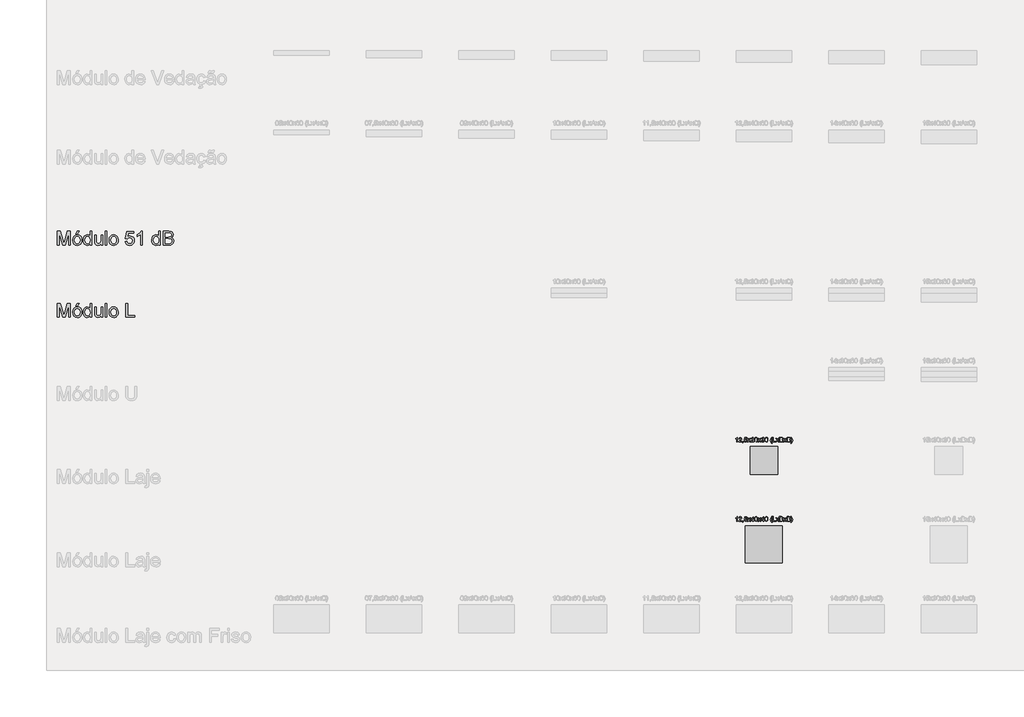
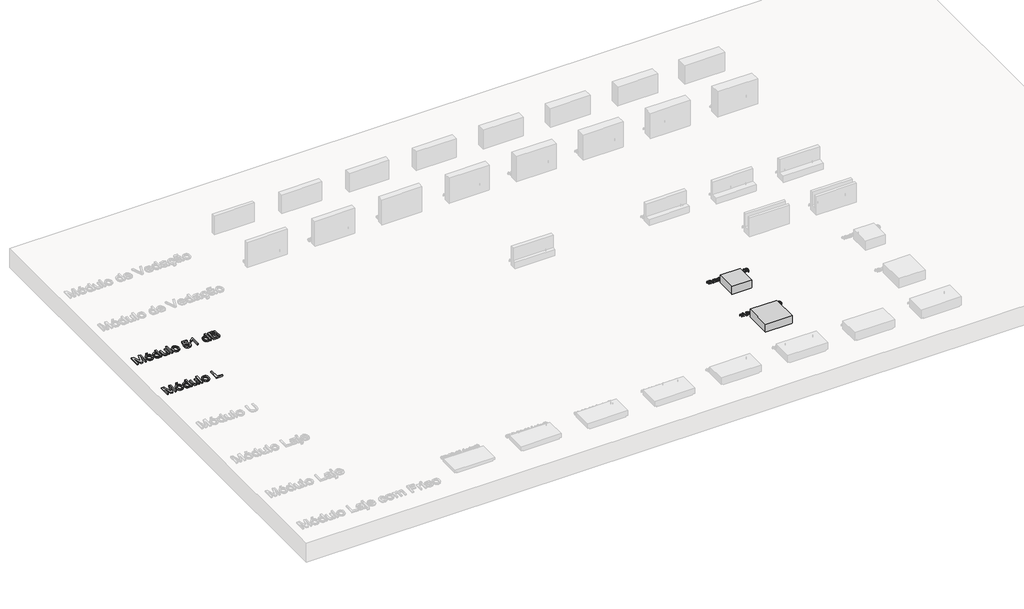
# One storey, part 5 of 26: 6 proxies.
"""IFC4 building model written with IfcOpenShell, lengths in millimetres."""

from ifc_helpers import new_model, si_unit, origin, origin_with_axes, place, context, project, spatial, polyline, outline, extrude, transform, mapped, element, save
from components import generic_models_fa7f8e5b, generic_models_7fb4620e

model = new_model("IFC4")

# Units and contexts
model_context = context("Model", 3, world=origin())
ifc_project = project(units=[si_unit("LENGTHUNIT", "METRE", prefix="MILLI")], contexts=[model_context])

# Site, building, storey
site = spatial("IfcSite", under=ifc_project)
building = spatial("IfcBuilding", under=site)
storey = spatial("IfcBuildingStorey", under=building, Name="Catálogo Celucon", Elevation=0.0)

# Proxies
placement = place(None, origin())
element("IfcBuildingElementProxy", 1, Name="Legenda Tabela de Módulos", ObjectType="Legenda Tabela de Módulos", at=placement, inside=storey, context=model_context, shape_type="SweptSolid", body=[
    extrude(outline(polyline([(-16139.397214, -754.6760122), (-16139.397214, -603.9915469), (-16106.9868102, -603.9915469), (-16076.158299, -710.199079), (-16069.9410933, -732.3823633), (-16063.2088528, -708.359669), (-16032.8953764, -603.9915469), (-16000.4849726, -603.9915469), (-16000.4849726, -754.6760122), (-16019.3205308, -754.6760122), (-16019.3205308, -622.8271051), (-16057.1755881, -754.6760122), (-16082.7065985, -754.6760122), (-16120.5616558, -622.8271051), (-16120.5616558, -754.6760122), (-16139.397214, -754.6760122)])), origin_with_axes(), (0.0, 0.0, 1.0), 20.0),
    extrude(outline(polyline([(-15974.5860802, -699.3465601), (-15970.5117871, -672.6659184), (-15958.2889078, -653.9131337), (-15943.1873519, -644.7252809), (-15925.1059518, -641.6626633), (-15905.318499, -645.392067), (-15889.5133688, -656.5802782), (-15879.1528921, -674.34438), (-15875.6993999, -697.8014557), (-15877.2261101, -716.8301519), (-15881.806241, -731.3155055), (-15889.3064352, -742.1634258), (-15899.5933354, -750.2798223), (-15911.8116162, -755.3427983), (-15925.1059518, -757.0304569), (-15945.1325279, -753.3148488), (-15960.919264, -742.1680243), (-15971.1693761, -724.031442), (-15974.5860802, -699.3465601)]), holes=[polyline([(-15955.750522, -699.3097719), (-15953.5708212, -716.3565038), (-15947.0317187, -728.5012082), (-15937.1908754, -735.7714761), (-15925.1059518, -738.1948988), (-15913.0762106, -735.7576806), (-15903.2537613, -728.4460259), (-15896.7146588, -716.1403732), (-15894.534958, -698.7211607), (-15896.7284544, -682.1710694), (-15903.3089436, -670.191912), (-15913.1451884, -662.921644), (-15925.1059518, -660.4982214), (-15937.1908754, -662.912447), (-15947.0317187, -670.1551238), (-15953.5708212, -682.272237), (-15955.750522, -699.3097719)])]), origin_with_axes(), (0.0, 0.0, 1.0), 20.0),
    extrude(outline(polyline([(-15939.2694086, -632.2448842), (-15925.14274, -603.9915469), (-15901.5982923, -603.9915469), (-15925.14274, -632.2448842), (-15939.2694086, -632.2448842)])), origin_with_axes(), (0.0, 0.0, 1.0), 20.0),
    extrude(outline(polyline([(-15786.2304986, -754.6760122), (-15786.2304986, -736.9073118), (-15798.6925012, -751.9996707), (-15815.9185756, -757.0304569), (-15828.0954697, -755.2094411), (-15839.2422941, -749.7463934), (-15848.6784673, -741.0229916), (-15855.7234075, -729.4209132), (-15860.1104003, -715.4092077), (-15861.5727312, -699.4569247), (-15856.18326, -669.4745421), (-15849.4510195, -657.5827566), (-15840.0332404, -648.8363622), (-15828.6426942, -643.456088), (-15815.992152, -641.6626633), (-15798.6281219, -646.7946171), (-15786.2304986, -660.1303394), (-15786.2304986, -603.9915469), (-15767.3949405, -603.9915469), (-15767.3949405, -754.6760122), (-15786.2304986, -754.6760122)]), holes=[polyline([(-15842.7371731, -699.3833483), (-15840.6126546, -716.4208832), (-15834.239099, -728.5379964), (-15824.9776698, -735.7806732), (-15814.1895303, -738.1948988), (-15803.4059893, -735.8910378), (-15794.3790848, -728.9794548), (-15788.2676452, -717.3313911), (-15786.2304986, -700.8180881), (-15788.3044334, -682.7642792), (-15794.5262376, -670.2470943), (-15803.7830683, -662.9354396), (-15814.9620825, -660.4982214), (-15825.8605866, -662.8388706), (-15834.790922, -669.8608182), (-15840.7506103, -681.9227491), (-15842.7371731, -699.3833483)])]), origin_with_axes(), (0.0, 0.0, 1.0), 20.0),
    extrude(outline(polyline([(-15668.5082602, -754.6760122), (-15668.5082602, -735.656513), (-15683.2603282, -751.686971), (-15702.5005565, -757.0304569), (-15720.2140746, -753.2780606), (-15732.4277568, -743.8602815), (-15738.0379573, -729.9911303), (-15739.1416032, -712.4799473), (-15739.1416032, -644.017108), (-15720.3060451, -644.017108), (-15720.3060451, -703.6139912), (-15719.1656109, -722.8174314), (-15711.7160005, -734.0930145), (-15697.6813024, -738.1948988), (-15681.9543471, -734.001044), (-15671.5616807, -722.5783081), (-15668.5082602, -701.5906403), (-15668.5082602, -644.017108), (-15649.672702, -644.017108), (-15649.672702, -754.6760122), (-15668.5082602, -754.6760122)])), origin_with_axes(), (0.0, 0.0, 1.0), 20.0),
    extrude(outline(polyline([(-15623.7738096, -754.6760122), (-15623.7738096, -603.9915469), (-15604.9382514, -603.9915469), (-15604.9382514, -754.6760122), (-15623.7738096, -754.6760122)])), origin_with_axes(), (0.0, 0.0, 1.0), 20.0),
    extrude(outline(polyline([(-15581.3938037, -699.3465601), (-15577.3195106, -672.6659184), (-15565.0966313, -653.9131337), (-15549.9950754, -644.7252809), (-15531.9136754, -641.6626633), (-15512.1262226, -645.392067), (-15496.3210923, -656.5802782), (-15485.9606156, -674.34438), (-15482.5071234, -697.8014557), (-15484.0338337, -716.8301519), (-15488.6139645, -731.3155055), (-15496.1141587, -742.1634258), (-15506.401059, -750.2798223), (-15518.6193398, -755.3427983), (-15531.9136754, -757.0304569), (-15551.9402515, -753.3148488), (-15567.7269876, -742.1680243), (-15577.9770997, -724.031442), (-15581.3938037, -699.3465601)]), holes=[polyline([(-15562.5582456, -699.3097719), (-15560.3785447, -716.3565038), (-15553.8394423, -728.5012082), (-15543.9985989, -735.7714761), (-15531.9136754, -738.1948988), (-15519.8839341, -735.7576806), (-15510.0614849, -728.4460259), (-15503.5223824, -716.1403732), (-15501.3426816, -698.7211607), (-15503.536178, -682.1710694), (-15510.1166672, -670.191912), (-15519.952912, -662.921644), (-15531.9136754, -660.4982214), (-15543.9985989, -662.912447), (-15553.8394423, -670.1551238), (-15560.3785447, -682.272237), (-15562.5582456, -699.3097719)])]), origin_with_axes(), (0.0, 0.0, 1.0), 20.0),
    extrude(outline(polyline([(-15407.1648908, -714.6504511), (-15388.3293326, -712.2960063), (-15384.8712419, -723.6037792), (-15378.8379772, -731.7017816), (-15370.2571296, -736.5716195), (-15359.1562904, -738.1948988), (-15345.6550212, -735.937023), (-15335.5382663, -729.1633958), (-15329.2198931, -718.6557663), (-15327.1137687, -705.1958838), (-15329.0865359, -692.5223491), (-15335.0048374, -682.8286585), (-15344.9146587, -676.6758321), (-15358.8619848, -674.62489), (-15375.3982805, -677.8990398), (-15385.9748879, -686.3971139), (-15404.810446, -684.0426691), (-15388.3293326, -606.3459917), (-15315.3415448, -606.3459917), (-15315.3415448, -625.1815499), (-15373.099018, -625.1815499), (-15381.1556337, -666.6786389), (-15367.7003498, -658.5116586), (-15353.6012723, -655.7893319), (-15336.0027174, -659.1646492), (-15321.3932036, -669.2906011), (-15311.5569588, -684.7232508), (-15308.2782105, -704.0186614), (-15311.2304635, -722.8542196), (-15320.0872225, -738.967451), (-15337.0465825, -752.5147054), (-15359.2298668, -757.0304569), (-15377.7297327, -754.1287877), (-15392.4680051, -745.42378), (-15402.5709644, -731.9271093), (-15407.1648908, -714.6504511)])), origin_with_axes(), (0.0, 0.0, 1.0), 20.0),
    extrude(outline(polyline([(-15221.163754, -754.6760122), (-15239.9993122, -754.6760122), (-15239.9993122, -637.2480793), (-15257.841589, -649.9584022), (-15277.6704285, -659.4681518), (-15277.6704285, -641.6626633), (-15250.0608848, -624.0411157), (-15233.3038599, -603.9915469), (-15221.163754, -603.9915469), (-15221.163754, -754.6760122)])), origin_with_axes(), (0.0, 0.0, 1.0), 20.0),
    extrude(outline(polyline([(-15044.5803964, -754.6760122), (-15044.5803964, -736.9073118), (-15057.0423989, -751.9996707), (-15074.2684734, -757.0304569), (-15086.4453674, -755.2094411), (-15097.5921919, -749.7463934), (-15107.028365, -741.0229916), (-15114.0733052, -729.4209132), (-15118.460298, -715.4092077), (-15119.922629, -699.4569247), (-15114.5331577, -669.4745421), (-15107.8009172, -657.5827566), (-15098.3831382, -648.8363622), (-15086.9925919, -643.456088), (-15074.3420498, -641.6626633), (-15056.9780196, -646.7946171), (-15044.5803964, -660.1303394), (-15044.5803964, -603.9915469), (-15025.7448382, -603.9915469), (-15025.7448382, -754.6760122), (-15044.5803964, -754.6760122)]), holes=[polyline([(-15101.0870708, -699.3833483), (-15098.9625523, -716.4208832), (-15092.5889967, -728.5379964), (-15083.3275675, -735.7806732), (-15072.539428, -738.1948988), (-15061.755887, -735.8910378), (-15052.7289825, -728.9794548), (-15046.6175429, -717.3313911), (-15044.5803964, -700.8180881), (-15046.6543311, -682.7642792), (-15052.8761353, -670.2470943), (-15062.1329661, -662.9354396), (-15073.3119802, -660.4982214), (-15084.2104843, -662.8388706), (-15093.1408197, -669.8608182), (-15099.100508, -681.9227491), (-15101.0870708, -699.3833483)])]), origin_with_axes(), (0.0, 0.0, 1.0), 20.0),
    extrude(outline(polyline([(-14995.1370562, -754.6760122), (-14995.1370562, -603.9915469), (-14937.6371004, -603.9915469), (-14909.4757336, -608.424525), (-14900.0119693, -614.048521), (-14892.8474674, -622.0545529), (-14886.8325968, -641.3315695), (-14891.8909743, -658.9347229), (-14907.1764712, -672.2704453), (-14896.5032948, -677.8438575), (-14888.6168245, -686.3235375), (-14883.7469866, -697.1484652), (-14882.1237073, -709.7576206), (-14886.5566853, -730.0095244), (-14897.5379629, -744.4304986), (-14913.9271058, -752.0824441), (-14938.0785588, -754.6760122), (-14995.1370562, -754.6760122)]), holes=[polyline([(-14976.3014981, -665.2071109), (-14941.9045315, -665.2071109), (-14921.8181746, -663.5884302), (-14909.733251, -656.6170664), (-14905.668155, -644.3482018), (-14909.4573395, -632.0609432), (-14920.3098584, -624.7952738), (-14944.5164937, -622.8271051), (-14976.3014981, -622.8271051), (-14976.3014981, -665.2071109)]), polyline([(-14976.3014981, -735.840454), (-14937.6738886, -735.840454), (-14923.6943727, -735.10469), (-14911.8669666, -731.0028058), (-14904.0310801, -722.6334904), (-14900.9592654, -709.9415616), (-14904.564509, -695.2998581), (-14916.2447623, -686.5626608), (-14939.5132985, -684.0426691), (-14976.3014981, -684.0426691), (-14976.3014981, -735.840454)])]), origin_with_axes(), (0.0, 0.0, 1.0), 20.0),
])
element("IfcBuildingElementProxy", 2, Name="Legenda Tabela de Módulos", ObjectType="Legenda Tabela de Módulos", at=placement, inside=storey, context=model_context, shape_type="SweptSolid", body=[
    extrude(outline(polyline([(-16139.397214, -1534.6760122), (-16139.397214, -1383.9915469), (-16106.9868102, -1383.9915469), (-16076.158299, -1490.199079), (-16069.9410933, -1512.3823633), (-16063.2088528, -1488.359669), (-16032.8953764, -1383.9915469), (-16000.4849726, -1383.9915469), (-16000.4849726, -1534.6760122), (-16019.3205308, -1534.6760122), (-16019.3205308, -1402.8271051), (-16057.1755881, -1534.6760122), (-16082.7065985, -1534.6760122), (-16120.5616558, -1402.8271051), (-16120.5616558, -1534.6760122), (-16139.397214, -1534.6760122)])), origin_with_axes(), (0.0, 0.0, 1.0), 20.0),
    extrude(outline(polyline([(-15974.5860802, -1479.3465601), (-15970.5117871, -1452.6659184), (-15958.2889078, -1433.9131337), (-15943.1873519, -1424.7252809), (-15925.1059518, -1421.6626633), (-15905.318499, -1425.392067), (-15889.5133688, -1436.5802782), (-15879.1528921, -1454.34438), (-15875.6993999, -1477.8014557), (-15877.2261101, -1496.8301519), (-15881.806241, -1511.3155055), (-15889.3064352, -1522.1634258), (-15899.5933354, -1530.2798223), (-15911.8116162, -1535.3427983), (-15925.1059518, -1537.0304569), (-15945.1325279, -1533.3148488), (-15960.919264, -1522.1680243), (-15971.1693761, -1504.031442), (-15974.5860802, -1479.3465601)]), holes=[polyline([(-15955.750522, -1479.3097719), (-15953.5708212, -1496.3565038), (-15947.0317187, -1508.5012082), (-15937.1908754, -1515.7714761), (-15925.1059518, -1518.1948988), (-15913.0762106, -1515.7576806), (-15903.2537613, -1508.4460259), (-15896.7146588, -1496.1403732), (-15894.534958, -1478.7211607), (-15896.7284544, -1462.1710694), (-15903.3089436, -1450.191912), (-15913.1451884, -1442.921644), (-15925.1059518, -1440.4982214), (-15937.1908754, -1442.912447), (-15947.0317187, -1450.1551238), (-15953.5708212, -1462.272237), (-15955.750522, -1479.3097719)])]), origin_with_axes(), (0.0, 0.0, 1.0), 20.0),
    extrude(outline(polyline([(-15939.2694086, -1412.2448842), (-15925.14274, -1383.9915469), (-15901.5982923, -1383.9915469), (-15925.14274, -1412.2448842), (-15939.2694086, -1412.2448842)])), origin_with_axes(), (0.0, 0.0, 1.0), 20.0),
    extrude(outline(polyline([(-15786.2304986, -1534.6760122), (-15786.2304986, -1516.9073118), (-15798.6925012, -1531.9996707), (-15815.9185756, -1537.0304569), (-15828.0954697, -1535.2094411), (-15839.2422941, -1529.7463934), (-15848.6784673, -1521.0229916), (-15855.7234075, -1509.4209132), (-15860.1104003, -1495.4092077), (-15861.5727312, -1479.4569247), (-15856.18326, -1449.4745421), (-15849.4510195, -1437.5827566), (-15840.0332404, -1428.8363622), (-15828.6426942, -1423.456088), (-15815.992152, -1421.6626633), (-15798.6281219, -1426.7946171), (-15786.2304986, -1440.1303394), (-15786.2304986, -1383.9915469), (-15767.3949405, -1383.9915469), (-15767.3949405, -1534.6760122), (-15786.2304986, -1534.6760122)]), holes=[polyline([(-15842.7371731, -1479.3833483), (-15840.6126546, -1496.4208832), (-15834.239099, -1508.5379964), (-15824.9776698, -1515.7806732), (-15814.1895303, -1518.1948988), (-15803.4059893, -1515.8910378), (-15794.3790848, -1508.9794548), (-15788.2676452, -1497.3313911), (-15786.2304986, -1480.8180881), (-15788.3044334, -1462.7642792), (-15794.5262376, -1450.2470943), (-15803.7830683, -1442.9354396), (-15814.9620825, -1440.4982214), (-15825.8605866, -1442.8388706), (-15834.790922, -1449.8608182), (-15840.7506103, -1461.9227491), (-15842.7371731, -1479.3833483)])]), origin_with_axes(), (0.0, 0.0, 1.0), 20.0),
    extrude(outline(polyline([(-15668.5082602, -1534.6760122), (-15668.5082602, -1515.656513), (-15683.2603282, -1531.686971), (-15702.5005565, -1537.0304569), (-15720.2140746, -1533.2780606), (-15732.4277568, -1523.8602815), (-15738.0379573, -1509.9911303), (-15739.1416032, -1492.4799473), (-15739.1416032, -1424.017108), (-15720.3060451, -1424.017108), (-15720.3060451, -1483.6139912), (-15719.1656109, -1502.8174314), (-15711.7160005, -1514.0930145), (-15697.6813024, -1518.1948988), (-15681.9543471, -1514.001044), (-15671.5616807, -1502.5783081), (-15668.5082602, -1481.5906403), (-15668.5082602, -1424.017108), (-15649.672702, -1424.017108), (-15649.672702, -1534.6760122), (-15668.5082602, -1534.6760122)])), origin_with_axes(), (0.0, 0.0, 1.0), 20.0),
    extrude(outline(polyline([(-15623.7738096, -1534.6760122), (-15623.7738096, -1383.9915469), (-15604.9382514, -1383.9915469), (-15604.9382514, -1534.6760122), (-15623.7738096, -1534.6760122)])), origin_with_axes(), (0.0, 0.0, 1.0), 20.0),
    extrude(outline(polyline([(-15581.3938037, -1479.3465601), (-15577.3195106, -1452.6659184), (-15565.0966313, -1433.9131337), (-15549.9950754, -1424.7252809), (-15531.9136754, -1421.6626633), (-15512.1262226, -1425.392067), (-15496.3210923, -1436.5802782), (-15485.9606156, -1454.34438), (-15482.5071234, -1477.8014557), (-15484.0338337, -1496.8301519), (-15488.6139645, -1511.3155055), (-15496.1141587, -1522.1634258), (-15506.401059, -1530.2798223), (-15518.6193398, -1535.3427983), (-15531.9136754, -1537.0304569), (-15551.9402515, -1533.3148488), (-15567.7269876, -1522.1680243), (-15577.9770997, -1504.031442), (-15581.3938037, -1479.3465601)]), holes=[polyline([(-15562.5582456, -1479.3097719), (-15560.3785447, -1496.3565038), (-15553.8394423, -1508.5012082), (-15543.9985989, -1515.7714761), (-15531.9136754, -1518.1948988), (-15519.8839341, -1515.7576806), (-15510.0614849, -1508.4460259), (-15503.5223824, -1496.1403732), (-15501.3426816, -1478.7211607), (-15503.536178, -1462.1710694), (-15510.1166672, -1450.191912), (-15519.952912, -1442.921644), (-15531.9136754, -1440.4982214), (-15543.9985989, -1442.912447), (-15553.8394423, -1450.1551238), (-15560.3785447, -1462.272237), (-15562.5582456, -1479.3097719)])]), origin_with_axes(), (0.0, 0.0, 1.0), 20.0),
    extrude(outline(polyline([(-15400.1015565, -1534.6760122), (-15400.1015565, -1383.9915469), (-15381.2659983, -1383.9915469), (-15381.2659983, -1515.840454), (-15305.9237657, -1515.840454), (-15305.9237657, -1534.6760122), (-15400.1015565, -1534.6760122)])), origin_with_axes(), (0.0, 0.0, 1.0), 20.0),
])
element("IfcBuildingElementProxy", 3, Name="Dimensões", ObjectType="Dimensões", at=placement, inside=storey, context=model_context, shape_type="SweptSolid", body=[
    extrude(outline(polyline([(-8785.1026375, -2885.3902979), (-8791.3811568, -2885.3902979), (-8791.3811568, -2846.2476536), (-8797.3285824, -2850.4844279), (-8803.9381956, -2853.6543444), (-8803.9381956, -2847.7191816), (-8794.7350144, -2841.8453324), (-8789.1493394, -2835.1621428), (-8785.1026375, -2835.1621428), (-8785.1026375, -2885.3902979)])), origin_with_axes(), (0.0, 0.0, 1.0), 20.0),
    extrude(outline(polyline([(-8738.0137421, -2879.1117785), (-8738.0137421, -2885.3902979), (-8770.9759688, -2885.3902979), (-8770.3015185, -2881.0615531), (-8766.4878085, -2874.3967576), (-8758.6273965, -2867.1188255), (-8747.7871404, -2856.6587141), (-8745.0770764, -2849.5463288), (-8747.6338563, -2843.7889756), (-8754.3109145, -2841.4406622), (-8761.2700155, -2843.7337933), (-8763.9126345, -2850.0736263), (-8770.1911539, -2849.2888114), (-8765.3780312, -2838.7796491), (-8754.1760244, -2835.1621428), (-8742.9372294, -2839.1843193), (-8738.798557, -2849.1661841), (-8739.9144657, -2855.119741), (-8743.6239425, -2861.2756331), (-8752.6186573, -2869.8779404), (-8759.8414071, -2875.9173365), (-8762.6740985, -2879.1117785), (-8738.0137421, -2879.1117785)])), origin_with_axes(), (0.0, 0.0, 1.0), 20.0),
    extrude(outline(polyline([(-8728.595963, -2885.3902979), (-8728.595963, -2879.1117785), (-8722.3174436, -2879.1117785), (-8722.3174436, -2885.3902979), (-8723.4456151, -2891.8098387), (-8727.0263332, -2895.5928919), (-8728.595963, -2893.2384471), (-8726.2905692, -2890.5283831), (-8725.468966, -2885.3902979), (-8728.595963, -2885.3902979)])), origin_with_axes(), (0.0, 0.0, 1.0), 20.0),
    extrude(outline(polyline([(-8712.1148496, -2872.0484442), (-8705.8363302, -2871.2636293), (-8702.6725451, -2877.732221), (-8696.1119828, -2879.8965934), (-8688.2393081, -2876.8860924), (-8685.4311422, -2868.8969218), (-8688.0614985, -2861.44118), (-8696.013881, -2858.7065905), (-8701.5259795, -2859.7979738), (-8705.0515153, -2862.6306651), (-8711.3300347, -2861.8458502), (-8705.8363302, -2835.9469577), (-8681.5070676, -2835.9469577), (-8681.5070676, -2842.2254771), (-8700.7595587, -2842.2254771), (-8703.4450973, -2856.0578401), (-8694.2603101, -2852.4280711), (-8683.5242872, -2856.9284942), (-8679.1526229, -2868.5045143), (-8683.0889602, -2880.1541108), (-8688.7420802, -2884.6698623), (-8696.1365083, -2886.1751128), (-8707.2158877, -2882.3062205), (-8712.1148496, -2872.0484442)])), origin_with_axes(), (0.0, 0.0, 1.0), 20.0),
    extrude(outline(polyline([(-8676.0133632, -2885.3902979), (-8662.5979331, -2866.8490453), (-8675.2285482, -2848.5039965), (-8667.6747046, -2848.5039965), (-8661.5801262, -2857.3331644), (-8658.7351721, -2861.5024937), (-8656.2703628, -2858.0934538), (-8649.3296558, -2848.5039965), (-8641.7758121, -2848.5039965), (-8655.0440894, -2866.8490453), (-8642.2663215, -2885.3902979), (-8649.8201651, -2885.3902979), (-8657.5088988, -2874.2434734), (-8658.9191131, -2872.2078597), (-8668.4595195, -2885.3902979), (-8676.0133632, -2885.3902979)])), origin_with_axes(), (0.0, 0.0, 1.0), 20.0),
    extrude(outline(polyline([(-8638.3422469, -2872.0484442), (-8632.0637275, -2871.2636293), (-8628.5995053, -2877.8732424), (-8622.1186509, -2879.8965934), (-8614.4912308, -2877.112953), (-8611.6585395, -2870.2212969), (-8614.4667054, -2863.7281797), (-8621.6036161, -2861.1591371), (-8626.0059373, -2861.8458502), (-8625.3069615, -2855.5673308), (-8617.1767694, -2853.8382854), (-8614.0129842, -2848.29553), (-8616.3061153, -2843.3843054), (-8622.2167527, -2841.4406622), (-8628.2009665, -2843.4026995), (-8631.2789125, -2849.2888114), (-8637.5574319, -2848.5039965), (-8632.4193467, -2838.6570218), (-8622.4374819, -2835.1621428), (-8614.8652442, -2836.8850568), (-8609.5677435, -2841.5939464), (-8607.7344649, -2847.927648), (-8609.475773, -2853.7156581), (-8614.6261209, -2857.8727246), (-8607.7835158, -2862.1646813), (-8605.3800201, -2870.3316615), (-8610.1870115, -2881.5643251), (-8622.3393801, -2886.1751128), (-8633.3513145, -2882.2387755), (-8638.3422469, -2872.0484442)])), origin_with_axes(), (0.0, 0.0, 1.0), 20.0),
    extrude(outline(polyline([(-8599.8863156, -2860.6808905), (-8598.0407743, -2846.2292595), (-8592.5593326, -2837.8967323), (-8583.4052022, -2835.1621428), (-8576.0720878, -2836.7808236), (-8571.007579, -2841.4467936), (-8568.064523, -2848.8780099), (-8566.9240889, -2860.6808905), (-8568.7512361, -2875.0712079), (-8574.2142837, -2883.4221292), (-8583.4052022, -2886.1751128), (-8594.8831205, -2881.3926469), (-8598.6355168, -2872.8976385), (-8599.8863156, -2860.6808905)]), holes=[polyline([(-8593.6077962, -2860.6686278), (-8590.6647403, -2876.260693), (-8583.4052022, -2879.8965934), (-8576.1456642, -2876.2484303), (-8573.2026082, -2860.6686278), (-8576.0475623, -2845.2543722), (-8583.4787786, -2841.4406622), (-8590.5666384, -2844.8006511), (-8593.6077962, -2860.6686278)])]), origin_with_axes(), (0.0, 0.0, 1.0), 20.0),
    extrude(outline(polyline([(-8563.7848292, -2885.3902979), (-8550.3693991, -2866.8490453), (-8563.0000142, -2848.5039965), (-8555.4461706, -2848.5039965), (-8549.3515922, -2857.3331644), (-8546.5066381, -2861.5024937), (-8544.0418288, -2858.0934538), (-8537.1011218, -2848.5039965), (-8529.5472781, -2848.5039965), (-8542.8155554, -2866.8490453), (-8530.0377875, -2885.3902979), (-8537.5916311, -2885.3902979), (-8545.2803648, -2874.2434734), (-8546.6905791, -2872.2078597), (-8556.2309855, -2885.3902979), (-8563.7848292, -2885.3902979)])), origin_with_axes(), (0.0, 0.0, 1.0), 20.0),
    extrude(outline(polyline([(-8526.1137129, -2872.0484442), (-8519.8351935, -2871.2636293), (-8516.3709714, -2877.8732424), (-8509.8901169, -2879.8965934), (-8502.2626968, -2877.112953), (-8499.4300055, -2870.2212969), (-8502.2381714, -2863.7281797), (-8509.3750821, -2861.1591371), (-8513.7774033, -2861.8458502), (-8513.0784275, -2855.5673308), (-8504.9482354, -2853.8382854), (-8501.7844502, -2848.29553), (-8504.0775813, -2843.3843054), (-8509.9882187, -2841.4406622), (-8515.9724325, -2843.4026995), (-8519.0503785, -2849.2888114), (-8525.3288979, -2848.5039965), (-8520.1908127, -2838.6570218), (-8510.2089479, -2835.1621428), (-8502.6367102, -2836.8850568), (-8497.3392095, -2841.5939464), (-8495.5059309, -2847.927648), (-8497.247239, -2853.7156581), (-8502.3975869, -2857.8727246), (-8495.5549818, -2862.1646813), (-8493.1514861, -2870.3316615), (-8497.9584775, -2881.5643251), (-8510.1108461, -2886.1751128), (-8521.1227805, -2882.2387755), (-8526.1137129, -2872.0484442)])), origin_with_axes(), (0.0, 0.0, 1.0), 20.0),
    extrude(outline(polyline([(-8487.6577816, -2860.6808905), (-8485.8122403, -2846.2292595), (-8480.3307986, -2837.8967323), (-8471.1766682, -2835.1621428), (-8463.8435538, -2836.7808236), (-8458.779045, -2841.4467936), (-8455.835989, -2848.8780099), (-8454.6955549, -2860.6808905), (-8456.5227021, -2875.0712079), (-8461.9857497, -2883.4221292), (-8471.1766682, -2886.1751128), (-8482.6545865, -2881.3926469), (-8486.4069828, -2872.8976385), (-8487.6577816, -2860.6808905)]), holes=[polyline([(-8481.3792622, -2860.6686278), (-8478.4362063, -2876.260693), (-8471.1766682, -2879.8965934), (-8463.9171302, -2876.2484303), (-8460.9740742, -2860.6686278), (-8463.8190283, -2845.2543722), (-8471.2502446, -2841.4406622), (-8478.3381044, -2844.8006511), (-8481.3792622, -2860.6686278)])]), origin_with_axes(), (0.0, 0.0, 1.0), 20.0),
    extrude(outline(polyline([(-8415.4548087, -2899.5169665), (-8424.3698157, -2884.789424), (-8428.0118475, -2867.3027665), (-8425.2895207, -2852.0356637), (-8415.4548087, -2835.1621428), (-8410.7459192, -2835.1621428), (-8416.6197684, -2845.1072194), (-8420.1514355, -2854.7457277), (-8421.7333281, -2867.3395547), (-8418.9864759, -2883.4343919), (-8410.7459192, -2899.5169665), (-8415.4548087, -2899.5169665)])), origin_with_axes(), (0.0, 0.0, 1.0), 20.0),
    extrude(outline(polyline([(-8403.6825849, -2885.3902979), (-8403.6825849, -2835.1621428), (-8397.4040655, -2835.1621428), (-8397.4040655, -2879.1117785), (-8372.2899879, -2879.1117785), (-8372.2899879, -2885.3902979), (-8403.6825849, -2885.3902979)])), origin_with_axes(), (0.0, 0.0, 1.0), 20.0),
    extrude(outline(polyline([(-8369.9355432, -2885.3902979), (-8356.5201131, -2866.8490453), (-8369.1507282, -2848.5039965), (-8361.5968846, -2848.5039965), (-8355.5023062, -2857.3331644), (-8352.6573521, -2861.5024937), (-8350.1925428, -2858.0934538), (-8343.2518358, -2848.5039965), (-8335.6979922, -2848.5039965), (-8348.9662694, -2866.8490453), (-8336.1885015, -2885.3902979), (-8343.7423451, -2885.3902979), (-8351.4310788, -2874.2434734), (-8352.8412931, -2872.2078597), (-8362.3816995, -2885.3902979), (-8369.9355432, -2885.3902979)])), origin_with_axes(), (0.0, 0.0, 1.0), 20.0),
    extrude(outline(polyline([(-8329.9099821, -2885.3902979), (-8329.9099821, -2835.1621428), (-8310.7433301, -2835.1621428), (-8301.3562079, -2836.6398022), (-8295.8134525, -2841.1831448), (-8293.8084956, -2847.608817), (-8295.4946214, -2853.4765348), (-8300.5897871, -2857.9217756), (-8294.4032382, -2862.6061396), (-8292.2388658, -2870.4175007), (-8293.7165251, -2877.1681353), (-8297.376951, -2881.9751267), (-8302.8399986, -2884.5257752), (-8310.8904829, -2885.3902979), (-8329.9099821, -2885.3902979)]), holes=[polyline([(-8323.6314627, -2855.5673308), (-8312.1658072, -2855.5673308), (-8305.4703549, -2855.0277705), (-8301.442047, -2852.7039826), (-8300.087015, -2848.6143611), (-8301.3500765, -2844.5186082), (-8304.9675828, -2842.0967184), (-8313.0364613, -2841.4406622), (-8323.6314627, -2841.4406622), (-8323.6314627, -2855.5673308)]), polyline([(-8323.6314627, -2879.1117785), (-8310.7555929, -2879.1117785), (-8306.0957543, -2878.8665238), (-8302.1532856, -2877.4992291), (-8299.5413234, -2874.7094573), (-8298.5173852, -2870.4788143), (-8299.719133, -2865.5982465), (-8303.6125508, -2862.6858474), (-8311.3687295, -2861.8458502), (-8323.6314627, -2861.8458502), (-8323.6314627, -2879.1117785)])]), origin_with_axes(), (0.0, 0.0, 1.0), 20.0),
    extrude(outline(polyline([(-8288.3147912, -2885.3902979), (-8274.8993611, -2866.8490453), (-8287.5299763, -2848.5039965), (-8279.9761326, -2848.5039965), (-8273.8815542, -2857.3331644), (-8271.0366001, -2861.5024937), (-8268.5717908, -2858.0934538), (-8261.6310838, -2848.5039965), (-8254.0772402, -2848.5039965), (-8267.3455174, -2866.8490453), (-8254.5677495, -2885.3902979), (-8262.1215931, -2885.3902979), (-8269.8103268, -2874.2434734), (-8271.2205411, -2872.2078597), (-8280.7609475, -2885.3902979), (-8288.3147912, -2885.3902979)])), origin_with_axes(), (0.0, 0.0, 1.0), 20.0),
    extrude(outline(polyline([(-8248.2892301, -2885.3902979), (-8248.2892301, -2835.1621428), (-8229.1225782, -2835.1621428), (-8219.7354559, -2836.6398022), (-8214.1927005, -2841.1831448), (-8212.1877436, -2847.608817), (-8213.8738695, -2853.4765348), (-8218.9690351, -2857.9217756), (-8212.7824862, -2862.6061396), (-8210.6181138, -2870.4175007), (-8212.0957731, -2877.1681353), (-8215.756199, -2881.9751267), (-8221.2192466, -2884.5257752), (-8229.2697309, -2885.3902979), (-8248.2892301, -2885.3902979)]), holes=[polyline([(-8242.0107107, -2855.5673308), (-8230.5450552, -2855.5673308), (-8223.8496029, -2855.0277705), (-8219.821295, -2852.7039826), (-8218.466263, -2848.6143611), (-8219.7293245, -2844.5186082), (-8223.3468308, -2842.0967184), (-8231.4157093, -2841.4406622), (-8242.0107107, -2841.4406622), (-8242.0107107, -2855.5673308)]), polyline([(-8242.0107107, -2879.1117785), (-8229.1348409, -2879.1117785), (-8224.4750023, -2878.8665238), (-8220.5325336, -2877.4992291), (-8217.9205714, -2874.7094573), (-8216.8966332, -2870.4788143), (-8218.098381, -2865.5982465), (-8221.9917988, -2862.6858474), (-8229.7479775, -2861.8458502), (-8242.0107107, -2861.8458502), (-8242.0107107, -2879.1117785)])]), origin_with_axes(), (0.0, 0.0, 1.0), 20.0),
    extrude(outline(polyline([(-8201.2003347, -2899.5169665), (-8205.9092243, -2899.5169665), (-8197.6686676, -2883.4343919), (-8194.9218153, -2867.3395547), (-8196.5037079, -2854.8560923), (-8199.9985869, -2845.2053213), (-8205.9092243, -2835.1621428), (-8201.2003347, -2835.1621428), (-8191.3656227, -2852.0356637), (-8188.6432959, -2867.3027665), (-8192.3037218, -2884.789424), (-8201.2003347, -2899.5169665)])), origin_with_axes(), (0.0, 0.0, 1.0), 20.0),
])
element("IfcBuildingElementProxy", 4, Name="Dimensões", ObjectType="Dimensões", at=placement, inside=storey, context=model_context, shape_type="SweptSolid", body=[
    extrude(outline(polyline([(-8785.1026375, -3742.533155), (-8791.3811568, -3742.533155), (-8791.3811568, -3703.3905107), (-8797.3285824, -3707.6272851), (-8803.9381956, -3710.7972016), (-8803.9381956, -3704.8620387), (-8794.7350144, -3698.9881895), (-8789.1493394, -3692.305), (-8785.1026375, -3692.305), (-8785.1026375, -3742.533155)])), origin_with_axes(), (0.0, 0.0, 1.0), 20.0),
    extrude(outline(polyline([(-8738.0137421, -3736.2546356), (-8738.0137421, -3742.533155), (-8770.9759688, -3742.533155), (-8770.3015185, -3738.2044102), (-8766.4878085, -3731.5396147), (-8758.6273965, -3724.2616826), (-8747.7871404, -3713.8015712), (-8745.0770764, -3706.689186), (-8747.6338563, -3700.9318327), (-8754.3109145, -3698.5835193), (-8761.2700155, -3700.8766504), (-8763.9126345, -3707.2164835), (-8770.1911539, -3706.4316686), (-8765.3780312, -3695.9225062), (-8754.1760244, -3692.305), (-8742.9372294, -3696.3271764), (-8738.798557, -3706.3090412), (-8739.9144657, -3712.2625982), (-8743.6239425, -3718.4184902), (-8752.6186573, -3727.0207976), (-8759.8414071, -3733.0601937), (-8762.6740985, -3736.2546356), (-8738.0137421, -3736.2546356)])), origin_with_axes(), (0.0, 0.0, 1.0), 20.0),
    extrude(outline(polyline([(-8728.595963, -3742.533155), (-8728.595963, -3736.2546356), (-8722.3174436, -3736.2546356), (-8722.3174436, -3742.533155), (-8723.4456151, -3748.9526958), (-8727.0263332, -3752.735749), (-8728.595963, -3750.3813043), (-8726.2905692, -3747.6712402), (-8725.468966, -3742.533155), (-8728.595963, -3742.533155)])), origin_with_axes(), (0.0, 0.0, 1.0), 20.0),
    extrude(outline(polyline([(-8712.1148496, -3729.1913013), (-8705.8363302, -3728.4064864), (-8702.6725451, -3734.8750782), (-8696.1119828, -3737.0394506), (-8688.2393081, -3734.0289496), (-8685.4311422, -3726.0397789), (-8688.0614985, -3718.5840371), (-8696.013881, -3715.8494476), (-8701.5259795, -3716.9408309), (-8705.0515153, -3719.7735223), (-8711.3300347, -3718.9887073), (-8705.8363302, -3693.0898149), (-8681.5070676, -3693.0898149), (-8681.5070676, -3699.3683343), (-8700.7595587, -3699.3683343), (-8703.4450973, -3713.2006973), (-8694.2603101, -3709.5709283), (-8683.5242872, -3714.0713513), (-8679.1526229, -3725.6473714), (-8683.0889602, -3737.296968), (-8688.7420802, -3741.8127195), (-8696.1365083, -3743.31797), (-8707.2158877, -3739.4490776), (-8712.1148496, -3729.1913013)])), origin_with_axes(), (0.0, 0.0, 1.0), 20.0),
    extrude(outline(polyline([(-8676.0133632, -3742.533155), (-8662.5979331, -3723.9919025), (-8675.2285482, -3705.6468536), (-8667.6747046, -3705.6468536), (-8661.5801262, -3714.4760215), (-8658.7351721, -3718.6453508), (-8656.2703628, -3715.236311), (-8649.3296558, -3705.6468536), (-8641.7758121, -3705.6468536), (-8655.0440894, -3723.9919025), (-8642.2663215, -3742.533155), (-8649.8201651, -3742.533155), (-8657.5088988, -3731.3863306), (-8658.9191131, -3729.3507169), (-8668.4595195, -3742.533155), (-8676.0133632, -3742.533155)])), origin_with_axes(), (0.0, 0.0, 1.0), 20.0),
    extrude(outline(polyline([(-8617.9370589, -3742.533155), (-8617.9370589, -3730.7609312), (-8640.6966916, -3730.7609312), (-8640.6966916, -3724.4824118), (-8616.367429, -3693.0898149), (-8611.6585395, -3693.0898149), (-8611.6585395, -3724.4824118), (-8605.3800201, -3724.4824118), (-8605.3800201, -3730.7609312), (-8611.6585395, -3730.7609312), (-8611.6585395, -3742.533155), (-8617.9370589, -3742.533155)]), holes=[polyline([(-8617.9370589, -3724.4824118), (-8617.9370589, -3705.0827679), (-8632.9711697, -3724.4824118), (-8617.9370589, -3724.4824118)])]), origin_with_axes(), (0.0, 0.0, 1.0), 20.0),
    extrude(outline(polyline([(-8599.8863156, -3717.8237477), (-8598.0407743, -3703.3721166), (-8592.5593326, -3695.0395894), (-8583.4052022, -3692.305), (-8576.0720878, -3693.9236807), (-8571.007579, -3698.5896507), (-8568.064523, -3706.020867), (-8566.9240889, -3717.8237477), (-8568.7512361, -3732.2140651), (-8574.2142837, -3740.5649864), (-8583.4052022, -3743.31797), (-8594.8831205, -3738.535504), (-8598.6355168, -3730.0404956), (-8599.8863156, -3717.8237477)]), holes=[polyline([(-8593.6077962, -3717.811485), (-8590.6647403, -3733.4035502), (-8583.4052022, -3737.0394506), (-8576.1456642, -3733.3912874), (-8573.2026082, -3717.811485), (-8576.0475623, -3702.3972294), (-8583.4787786, -3698.5835193), (-8590.5666384, -3701.9435082), (-8593.6077962, -3717.811485)])]), origin_with_axes(), (0.0, 0.0, 1.0), 20.0),
    extrude(outline(polyline([(-8563.7848292, -3742.533155), (-8550.3693991, -3723.9919025), (-8563.0000142, -3705.6468536), (-8555.4461706, -3705.6468536), (-8549.3515922, -3714.4760215), (-8546.5066381, -3718.6453508), (-8544.0418288, -3715.236311), (-8537.1011218, -3705.6468536), (-8529.5472781, -3705.6468536), (-8542.8155554, -3723.9919025), (-8530.0377875, -3742.533155), (-8537.5916311, -3742.533155), (-8545.2803648, -3731.3863306), (-8546.6905791, -3729.3507169), (-8556.2309855, -3742.533155), (-8563.7848292, -3742.533155)])), origin_with_axes(), (0.0, 0.0, 1.0), 20.0),
    extrude(outline(polyline([(-8505.7085249, -3742.533155), (-8505.7085249, -3730.7609312), (-8528.4681576, -3730.7609312), (-8528.4681576, -3724.4824118), (-8504.138895, -3693.0898149), (-8499.4300055, -3693.0898149), (-8499.4300055, -3724.4824118), (-8493.1514861, -3724.4824118), (-8493.1514861, -3730.7609312), (-8499.4300055, -3730.7609312), (-8499.4300055, -3742.533155), (-8505.7085249, -3742.533155)]), holes=[polyline([(-8505.7085249, -3724.4824118), (-8505.7085249, -3705.0827679), (-8520.7426357, -3724.4824118), (-8505.7085249, -3724.4824118)])]), origin_with_axes(), (0.0, 0.0, 1.0), 20.0),
    extrude(outline(polyline([(-8487.6577816, -3717.8237477), (-8485.8122403, -3703.3721166), (-8480.3307986, -3695.0395894), (-8471.1766682, -3692.305), (-8463.8435538, -3693.9236807), (-8458.779045, -3698.5896507), (-8455.835989, -3706.020867), (-8454.6955549, -3717.8237477), (-8456.5227021, -3732.2140651), (-8461.9857497, -3740.5649864), (-8471.1766682, -3743.31797), (-8482.6545865, -3738.535504), (-8486.4069828, -3730.0404956), (-8487.6577816, -3717.8237477)]), holes=[polyline([(-8481.3792622, -3717.811485), (-8478.4362063, -3733.4035502), (-8471.1766682, -3737.0394506), (-8463.9171302, -3733.3912874), (-8460.9740742, -3717.811485), (-8463.8190283, -3702.3972294), (-8471.2502446, -3698.5835193), (-8478.3381044, -3701.9435082), (-8481.3792622, -3717.811485)])]), origin_with_axes(), (0.0, 0.0, 1.0), 20.0),
    extrude(outline(polyline([(-8415.4548087, -3756.6598236), (-8424.3698157, -3741.9322811), (-8428.0118475, -3724.4456236), (-8425.2895207, -3709.1785208), (-8415.4548087, -3692.305), (-8410.7459192, -3692.305), (-8416.6197684, -3702.2500766), (-8420.1514355, -3711.8885848), (-8421.7333281, -3724.4824118), (-8418.9864759, -3740.5772491), (-8410.7459192, -3756.6598236), (-8415.4548087, -3756.6598236)])), origin_with_axes(), (0.0, 0.0, 1.0), 20.0),
    extrude(outline(polyline([(-8403.6825849, -3742.533155), (-8403.6825849, -3692.305), (-8397.4040655, -3692.305), (-8397.4040655, -3736.2546356), (-8372.2899879, -3736.2546356), (-8372.2899879, -3742.533155), (-8403.6825849, -3742.533155)])), origin_with_axes(), (0.0, 0.0, 1.0), 20.0),
    extrude(outline(polyline([(-8369.9355432, -3742.533155), (-8356.5201131, -3723.9919025), (-8369.1507282, -3705.6468536), (-8361.5968846, -3705.6468536), (-8355.5023062, -3714.4760215), (-8352.6573521, -3718.6453508), (-8350.1925428, -3715.236311), (-8343.2518358, -3705.6468536), (-8335.6979922, -3705.6468536), (-8348.9662694, -3723.9919025), (-8336.1885015, -3742.533155), (-8343.7423451, -3742.533155), (-8351.4310788, -3731.3863306), (-8352.8412931, -3729.3507169), (-8362.3816995, -3742.533155), (-8369.9355432, -3742.533155)])), origin_with_axes(), (0.0, 0.0, 1.0), 20.0),
    extrude(outline(polyline([(-8329.9099821, -3742.533155), (-8329.9099821, -3692.305), (-8310.7433301, -3692.305), (-8301.3562079, -3693.7826593), (-8295.8134525, -3698.3260019), (-8293.8084956, -3704.7516741), (-8295.4946214, -3710.6193919), (-8300.5897871, -3715.0646327), (-8294.4032382, -3719.7489968), (-8292.2388658, -3727.5603578), (-8293.7165251, -3734.3109924), (-8297.376951, -3739.1179838), (-8302.8399986, -3741.6686323), (-8310.8904829, -3742.533155), (-8329.9099821, -3742.533155)]), holes=[polyline([(-8323.6314627, -3712.710188), (-8312.1658072, -3712.710188), (-8305.4703549, -3712.1706277), (-8301.442047, -3709.8468398), (-8300.087015, -3705.7572182), (-8301.3500765, -3701.6614654), (-8304.9675828, -3699.2395756), (-8313.0364613, -3698.5835193), (-8323.6314627, -3698.5835193), (-8323.6314627, -3712.710188)]), polyline([(-8323.6314627, -3736.2546356), (-8310.7555929, -3736.2546356), (-8306.0957543, -3736.009381), (-8302.1532856, -3734.6420862), (-8299.5413234, -3731.8523144), (-8298.5173852, -3727.6216715), (-8299.719133, -3722.7411037), (-8303.6125508, -3719.8287046), (-8311.3687295, -3718.9887073), (-8323.6314627, -3718.9887073), (-8323.6314627, -3736.2546356)])]), origin_with_axes(), (0.0, 0.0, 1.0), 20.0),
    extrude(outline(polyline([(-8288.3147912, -3742.533155), (-8274.8993611, -3723.9919025), (-8287.5299763, -3705.6468536), (-8279.9761326, -3705.6468536), (-8273.8815542, -3714.4760215), (-8271.0366001, -3718.6453508), (-8268.5717908, -3715.236311), (-8261.6310838, -3705.6468536), (-8254.0772402, -3705.6468536), (-8267.3455174, -3723.9919025), (-8254.5677495, -3742.533155), (-8262.1215931, -3742.533155), (-8269.8103268, -3731.3863306), (-8271.2205411, -3729.3507169), (-8280.7609475, -3742.533155), (-8288.3147912, -3742.533155)])), origin_with_axes(), (0.0, 0.0, 1.0), 20.0),
    extrude(outline(polyline([(-8248.2892301, -3742.533155), (-8248.2892301, -3692.305), (-8229.1225782, -3692.305), (-8219.7354559, -3693.7826593), (-8214.1927005, -3698.3260019), (-8212.1877436, -3704.7516741), (-8213.8738695, -3710.6193919), (-8218.9690351, -3715.0646327), (-8212.7824862, -3719.7489968), (-8210.6181138, -3727.5603578), (-8212.0957731, -3734.3109924), (-8215.756199, -3739.1179838), (-8221.2192466, -3741.6686323), (-8229.2697309, -3742.533155), (-8248.2892301, -3742.533155)]), holes=[polyline([(-8242.0107107, -3712.710188), (-8230.5450552, -3712.710188), (-8223.8496029, -3712.1706277), (-8219.821295, -3709.8468398), (-8218.466263, -3705.7572182), (-8219.7293245, -3701.6614654), (-8223.3468308, -3699.2395756), (-8231.4157093, -3698.5835193), (-8242.0107107, -3698.5835193), (-8242.0107107, -3712.710188)]), polyline([(-8242.0107107, -3736.2546356), (-8229.1348409, -3736.2546356), (-8224.4750023, -3736.009381), (-8220.5325336, -3734.6420862), (-8217.9205714, -3731.8523144), (-8216.8966332, -3727.6216715), (-8218.098381, -3722.7411037), (-8221.9917988, -3719.8287046), (-8229.7479775, -3718.9887073), (-8242.0107107, -3718.9887073), (-8242.0107107, -3736.2546356)])]), origin_with_axes(), (0.0, 0.0, 1.0), 20.0),
    extrude(outline(polyline([(-8201.2003347, -3756.6598236), (-8205.9092243, -3756.6598236), (-8197.6686676, -3740.5772491), (-8194.9218153, -3724.4824118), (-8196.5037079, -3711.9989494), (-8199.9985869, -3702.3481784), (-8205.9092243, -3692.305), (-8201.2003347, -3692.305), (-8191.3656227, -3709.1785208), (-8188.6432959, -3724.4456236), (-8192.3037218, -3741.9322811), (-8201.2003347, -3756.6598236)])), origin_with_axes(), (0.0, 0.0, 1.0), 20.0),
])
generic_models_shape = generic_models_fa7f8e5b(model_context)
element("IfcBuildingElementProxy", 5, Name="Módulo Laje de Concreto Celular - Celucon : MLCC 12,5x30x30cm (A x B x B)", ObjectType="Módulo Laje de Concreto Celular - Celucon : MLCC 12,5x30x30cm (A x B x B)", at=placement, inside=storey, context=model_context, shape_type="MappedRepresentation", body=[
    mapped(generic_models_shape, transform((-8497.8603756, -3085.3902979, 0.0), x_axis=(1.0, 0.0, 0.0), y_axis=(0.0, 1.0, 0.0), z_axis=(0.0, 0.0, 1.0))),
])
generic_models_2_shape = generic_models_7fb4620e(model_context)
element("IfcBuildingElementProxy", 6, Name="Módulo Laje de Concreto Celular - Celucon : MLCC 12,5x40x40cm (A x B x B)", ObjectType="Módulo Laje de Concreto Celular - Celucon : MLCC 12,5x40x40cm (A x B x B)", at=placement, inside=storey, context=model_context, shape_type="MappedRepresentation", body=[
    mapped(generic_models_2_shape, transform((-8497.8603756, -3992.533155, 0.0), x_axis=(1.0, 0.0, 0.0), y_axis=(0.0, 1.0, 0.0), z_axis=(0.0, 0.0, 1.0))),
])

save(model, "model.ifc")
